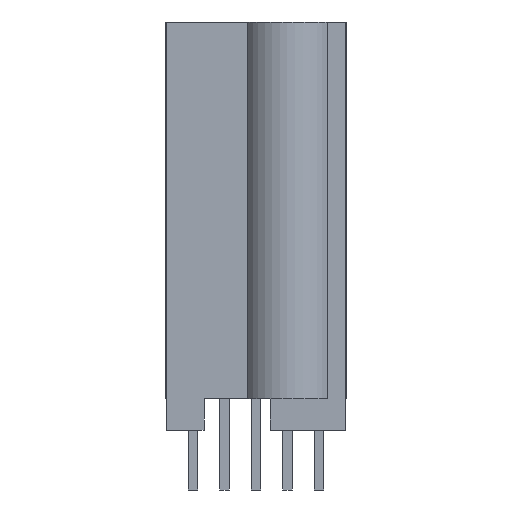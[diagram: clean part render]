
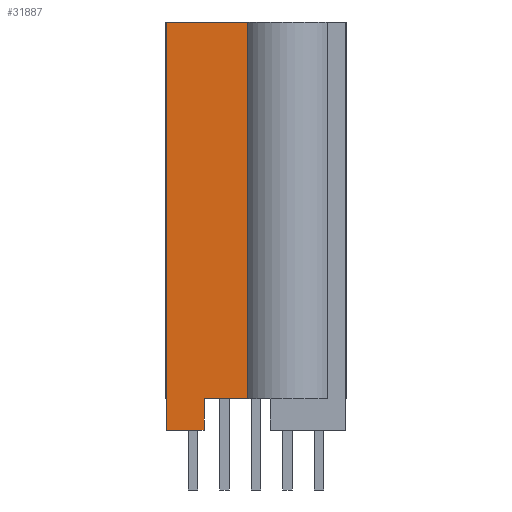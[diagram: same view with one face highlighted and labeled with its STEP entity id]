
A CAD part, left-side view. The second image highlights one B-rep face of the part: STEP entity #31887.
In plain terms, the highlighted planar face has unit normal (-1, 0, 0).
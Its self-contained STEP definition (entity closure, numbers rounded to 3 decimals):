
#143=DIRECTION('',(0.,1.,0.));
#144=VECTOR('',#143,3.286);
#145=CARTESIAN_POINT('',(-39.942,0.333,0.));
#146=LINE('',#145,#144);
#6440=DIRECTION('',(0.,1.,0.));
#6441=VECTOR('',#6440,1.762);
#6442=CARTESIAN_POINT('',(-39.942,0.333,-15.189));
#6443=LINE('',#6442,#6441);
#9358=DIRECTION('',(0.,1.,0.));
#9359=VECTOR('',#9358,1.524);
#9360=CARTESIAN_POINT('',(-39.942,2.096,-16.459));
#9361=LINE('',#9360,#9359);
#9402=DIRECTION('',(0.,0.,1.));
#9403=VECTOR('',#9402,15.189);
#9404=CARTESIAN_POINT('',(-39.942,0.333,-15.189));
#9405=LINE('',#9404,#9403);
#9406=DIRECTION('',(0.,0.,-1.));
#9407=VECTOR('',#9406,1.27);
#9408=CARTESIAN_POINT('',(-39.942,2.096,-15.189));
#9409=LINE('',#9408,#9407);
#9410=DIRECTION('',(0.,0.,1.));
#9411=VECTOR('',#9410,16.459);
#9412=CARTESIAN_POINT('',(-39.942,3.62,-16.459));
#9413=LINE('',#9412,#9411);
#14710=CARTESIAN_POINT('',(-39.942,0.333,0.));
#14711=CARTESIAN_POINT('',(-39.942,3.62,0.));
#14712=VERTEX_POINT('',#14710);
#14713=VERTEX_POINT('',#14711);
#14726=CARTESIAN_POINT('',(-39.942,0.333,-15.189));
#14727=VERTEX_POINT('',#14726);
#14806=CARTESIAN_POINT('',(-39.942,3.62,-16.459));
#14808=VERTEX_POINT('',#14806);
#14812=CARTESIAN_POINT('',(-39.942,2.096,-16.459));
#14813=VERTEX_POINT('',#14812);
#14840=CARTESIAN_POINT('',(-39.942,2.096,-15.189));
#14841=VERTEX_POINT('',#14840);
#31873=CARTESIAN_POINT('',(-39.942,3.62,0.));
#31874=DIRECTION('',(-1.,0.,0.));
#31875=DIRECTION('',(0.,-1.,0.));
#31876=AXIS2_PLACEMENT_3D('',#31873,#31874,#31875);
#31877=PLANE('',#31876);
#31878=ORIENTED_EDGE('',*,*,#29830,.T.);
#31880=ORIENTED_EDGE('',*,*,#31879,.T.);
#31881=ORIENTED_EDGE('',*,*,#31757,.T.);
#31882=ORIENTED_EDGE('',*,*,#31612,.T.);
#31883=ORIENTED_EDGE('',*,*,#19605,.F.);
#31884=ORIENTED_EDGE('',*,*,#31866,.F.);
#31885=EDGE_LOOP('',(#31878,#31880,#31881,#31882,#31883,#31884));
#31886=FACE_OUTER_BOUND('',#31885,.F.);
#31887=ADVANCED_FACE('',(#31886),#31877,.T.);
#19605=EDGE_CURVE('',#14712,#14713,#146,.T.);
#29830=EDGE_CURVE('',#14727,#14841,#6443,.T.);
#31612=EDGE_CURVE('',#14808,#14713,#9413,.T.);
#31757=EDGE_CURVE('',#14813,#14808,#9361,.T.);
#31866=EDGE_CURVE('',#14727,#14712,#9405,.T.);
#31879=EDGE_CURVE('',#14841,#14813,#9409,.T.);
